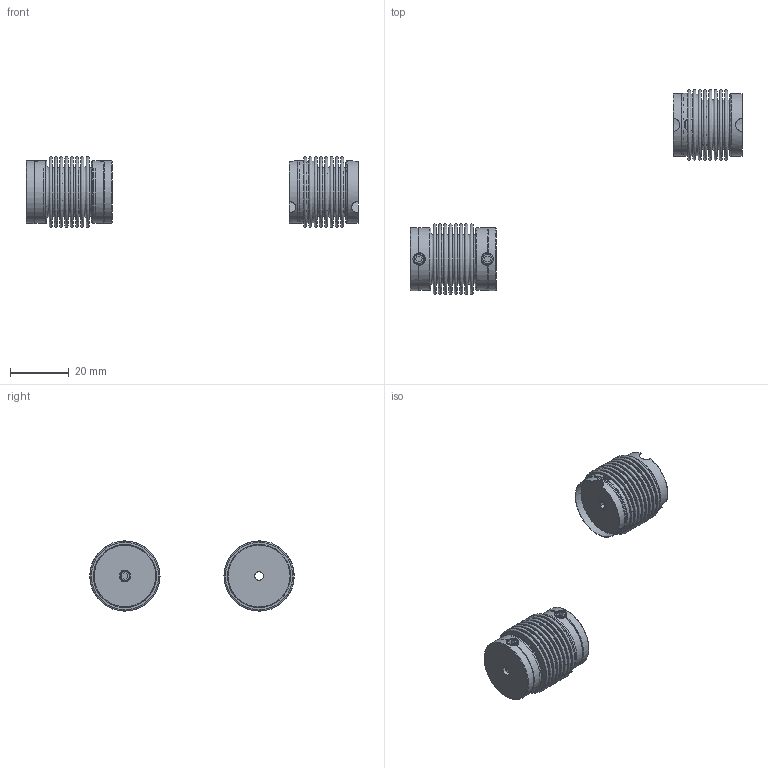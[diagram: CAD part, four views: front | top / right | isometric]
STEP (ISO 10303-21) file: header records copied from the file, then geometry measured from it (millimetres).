
FILE_DESCRIPTION( ( 'Unknown' ), '1' );
FILE_NAME( 'C:/Dokumente und Einstellungen/Sven/Desktop/cad - homepage/KB1/KB1-20-28.stp', 'Unknown', ( 'Unknown' ), ( 'Unknown' ), 'XStep 1.0', 'Unknown', ' ' );
FILE_SCHEMA( ( 'automotive_design' ) );
Length unit declared in the file: millimetre
Products named in the file (4): Assem1; Socket Set Screw Cup Point_DIN_DIN 916 - M4 x 6-N_2; MN20_Standard_0; BM20 - ausgeklinkt_Standard
Bounding box: 113.29 x 69.77 x 23.99 mm (x, y, z)
Volume: 7900.2 mm3; surface area: 24648.8 mm2
Topology: 10 solids, 10 shells, 271 faces, 555 edges, 360 vertices
Faces by surface type: plane 132, torus 76, cylinder 36, cone 27
Full cylindrical faces by diameter (mm): 3 x3, 4 x11, 21 x7, 21.3 x4, 21.5 x3
Entity records: 3069 total; most frequent: CARTESIAN_POINT 825, DIRECTION 468, ORIENTED_EDGE 298, AXIS2_PLACEMENT_3D 220, EDGE_LOOP 203, FACE_OUTER_BOUND 159, EDGE_CURVE 149, VERTEX_POINT 129
